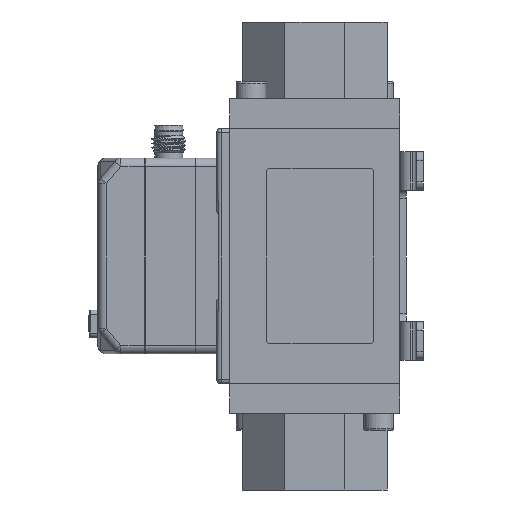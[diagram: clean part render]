
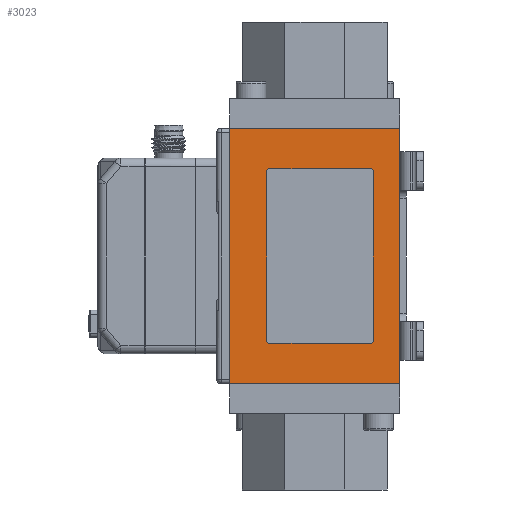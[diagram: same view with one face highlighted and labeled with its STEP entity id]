
A CAD part, front view. The second image highlights one B-rep face of the part: STEP entity #3023.
In plain terms, the highlighted planar face has unit normal (0, -1, 0).
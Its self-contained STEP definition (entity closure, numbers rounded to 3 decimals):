
#1912=FACE_BOUND('',#5682,.T.);
#1913=FACE_BOUND('',#5683,.T.);
#2364=CIRCLE('',#19738,0.5);
#2365=CIRCLE('',#19739,0.5);
#2366=CIRCLE('',#19740,0.5);
#2367=CIRCLE('',#19741,0.5);
#3023=ADVANCED_FACE('',(#1912,#1913),#3984,.T.);
#3984=PLANE('',#19742);
#5682=EDGE_LOOP('',(#8053,#8054,#8055,#8056));
#5683=EDGE_LOOP('',(#8057,#8058,#8059,#8060,#8061,#8062,#8063,#8064));
#8053=ORIENTED_EDGE('',*,*,#14268,.F.);
#8054=ORIENTED_EDGE('',*,*,#14269,.T.);
#8055=ORIENTED_EDGE('',*,*,#14270,.T.);
#8056=ORIENTED_EDGE('',*,*,#14271,.F.);
#8057=ORIENTED_EDGE('',*,*,#14272,.F.);
#8058=ORIENTED_EDGE('',*,*,#14273,.F.);
#8059=ORIENTED_EDGE('',*,*,#14274,.F.);
#8060=ORIENTED_EDGE('',*,*,#14275,.F.);
#8061=ORIENTED_EDGE('',*,*,#14276,.F.);
#8062=ORIENTED_EDGE('',*,*,#14277,.F.);
#8063=ORIENTED_EDGE('',*,*,#14278,.F.);
#8064=ORIENTED_EDGE('',*,*,#14279,.F.);
#12346=VERTEX_POINT('',#31265);
#12347=VERTEX_POINT('',#31266);
#12348=VERTEX_POINT('',#31268);
#12349=VERTEX_POINT('',#31270);
#12350=VERTEX_POINT('',#31273);
#12351=VERTEX_POINT('',#31274);
#12352=VERTEX_POINT('',#31276);
#12353=VERTEX_POINT('',#31278);
#12354=VERTEX_POINT('',#31280);
#12355=VERTEX_POINT('',#31282);
#12356=VERTEX_POINT('',#31284);
#12357=VERTEX_POINT('',#31286);
#14268=EDGE_CURVE('',#12346,#12347,#16595,.T.);
#14269=EDGE_CURVE('',#12346,#12348,#16596,.T.);
#14270=EDGE_CURVE('',#12348,#12349,#16597,.T.);
#14271=EDGE_CURVE('',#12347,#12349,#16598,.T.);
#14272=EDGE_CURVE('',#12350,#12351,#2364,.T.);
#14273=EDGE_CURVE('',#12352,#12350,#16599,.T.);
#14274=EDGE_CURVE('',#12353,#12352,#2365,.T.);
#14275=EDGE_CURVE('',#12354,#12353,#16600,.T.);
#14276=EDGE_CURVE('',#12355,#12354,#2366,.T.);
#14277=EDGE_CURVE('',#12356,#12355,#16601,.T.);
#14278=EDGE_CURVE('',#12357,#12356,#2367,.T.);
#14279=EDGE_CURVE('',#12351,#12357,#16602,.T.);
#16595=LINE('',#31264,#18229);
#16596=LINE('',#31267,#18230);
#16597=LINE('',#31269,#18231);
#16598=LINE('',#31271,#18232);
#16599=LINE('',#31275,#18233);
#16600=LINE('',#31279,#18234);
#16601=LINE('',#31283,#18235);
#16602=LINE('',#31287,#18236);
#18229=VECTOR('',#22239,1.);
#18230=VECTOR('',#22240,1.);
#18231=VECTOR('',#22241,1.);
#18232=VECTOR('',#22242,1.);
#18233=VECTOR('',#22245,1.);
#18234=VECTOR('',#22248,1.);
#18235=VECTOR('',#22251,1.);
#18236=VECTOR('',#22254,1.);
#19738=AXIS2_PLACEMENT_3D('',#31272,#22243,#22244);
#19739=AXIS2_PLACEMENT_3D('',#31277,#22246,#22247);
#19740=AXIS2_PLACEMENT_3D('',#31281,#22249,#22250);
#19741=AXIS2_PLACEMENT_3D('',#31285,#22252,#22253);
#19742=AXIS2_PLACEMENT_3D('',#31288,#22255,#22256);
#22239=DIRECTION('',(0.,0.,1.));
#22240=DIRECTION('',(1.,0.,0.));
#22241=DIRECTION('',(0.,0.,1.));
#22242=DIRECTION('',(1.,0.,0.));
#22243=DIRECTION('',(0.,-1.,0.));
#22244=DIRECTION('',(0.,0.,1.));
#22245=DIRECTION('',(0.,0.,-1.));
#22246=DIRECTION('',(0.,-1.,0.));
#22247=DIRECTION('',(0.,0.,1.));
#22248=DIRECTION('',(-1.,0.,0.));
#22249=DIRECTION('',(0.,-1.,0.));
#22250=DIRECTION('',(0.,0.,1.));
#22251=DIRECTION('',(0.,0.,1.));
#22252=DIRECTION('',(0.,-1.,0.));
#22253=DIRECTION('',(0.,0.,1.));
#22254=DIRECTION('',(1.,0.,0.));
#22255=DIRECTION('',(0.,-1.,0.));
#22256=DIRECTION('',(-1.,0.,0.));
#31264=CARTESIAN_POINT('',(2.,2.,-78.));
#31265=CARTESIAN_POINT('',(2.,2.,-68.));
#31266=CARTESIAN_POINT('',(2.,2.,-8.));
#31267=CARTESIAN_POINT('',(-0.5,2.,-68.));
#31268=CARTESIAN_POINT('',(42.,2.,-68.));
#31269=CARTESIAN_POINT('',(42.,2.,-78.));
#31270=CARTESIAN_POINT('',(42.,2.,-8.));
#31271=CARTESIAN_POINT('',(-0.5,2.,-8.));
#31272=CARTESIAN_POINT('',(11.25,2.,-58.));
#31273=CARTESIAN_POINT('',(10.75,2.,-58.));
#31274=CARTESIAN_POINT('',(11.25,2.,-58.5));
#31275=CARTESIAN_POINT('',(10.75,2.,-18.));
#31276=CARTESIAN_POINT('',(10.75,2.,-18.));
#31277=CARTESIAN_POINT('',(11.25,2.,-18.));
#31278=CARTESIAN_POINT('',(11.25,2.,-17.5));
#31279=CARTESIAN_POINT('',(35.25,2.,-17.5));
#31280=CARTESIAN_POINT('',(35.25,2.,-17.5));
#31281=CARTESIAN_POINT('',(35.25,2.,-18.));
#31282=CARTESIAN_POINT('',(35.75,2.,-18.));
#31283=CARTESIAN_POINT('',(35.75,2.,-68.));
#31284=CARTESIAN_POINT('',(35.75,2.,-58.));
#31285=CARTESIAN_POINT('',(35.25,2.,-58.));
#31286=CARTESIAN_POINT('',(35.25,2.,-58.5));
#31287=CARTESIAN_POINT('',(11.25,2.,-58.5));
#31288=CARTESIAN_POINT('',(-0.5,2.,-78.));
